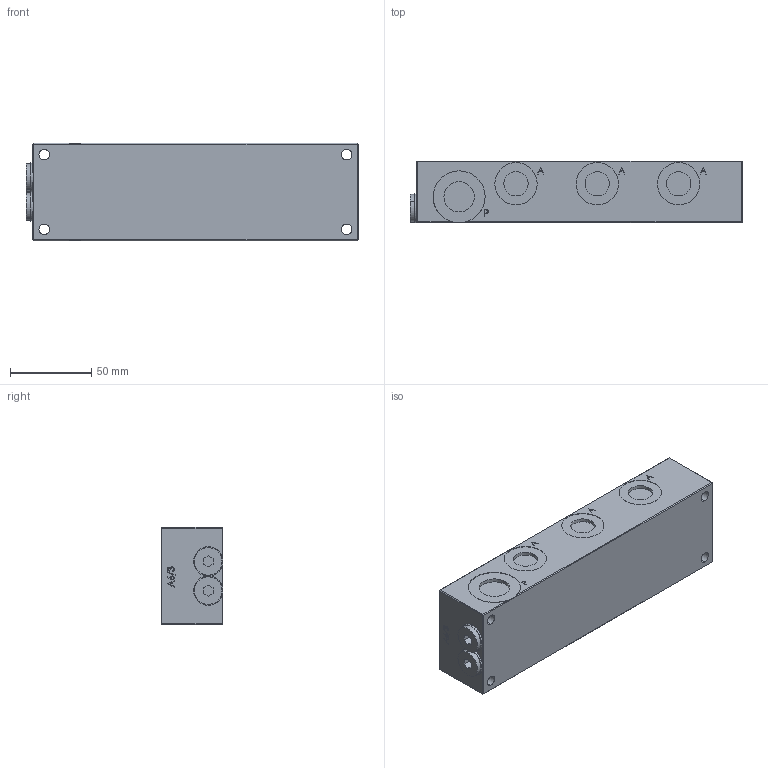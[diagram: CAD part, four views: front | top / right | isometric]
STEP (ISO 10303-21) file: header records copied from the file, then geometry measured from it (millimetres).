
FILE_DESCRIPTION (( 'STEP AP214' ), '1' );
FILE_NAME ('A6_3.STEP', '2017-05-01T14:01:58', ( '' ), ( '' ), 'SwSTEP 2.0', 'SolidWorks 2016', '' );
FILE_SCHEMA (( 'AUTOMOTIVE_DESIGN' ));
Length unit declared in the file: millimetre
Products named in the file (1): A6_3
Bounding box: 204.2 x 38.01 x 60 mm (x, y, z)
Volume: 443355.9 mm3; surface area: 55400.3 mm2
Topology: 3 solids, 5 shells, 394 faces, 923 edges, 607 vertices
Faces by surface type: plane 214, cylinder 112, bspline 56, cone 12
Entity records: 18026 total; most frequent: CARTESIAN_POINT 5451, ORIENTED_EDGE 1846, DIRECTION 1663, EDGE_CURVE 923, VERTEX_POINT 607, VECTOR 561, LINE 561, AXIS2_PLACEMENT_3D 551
